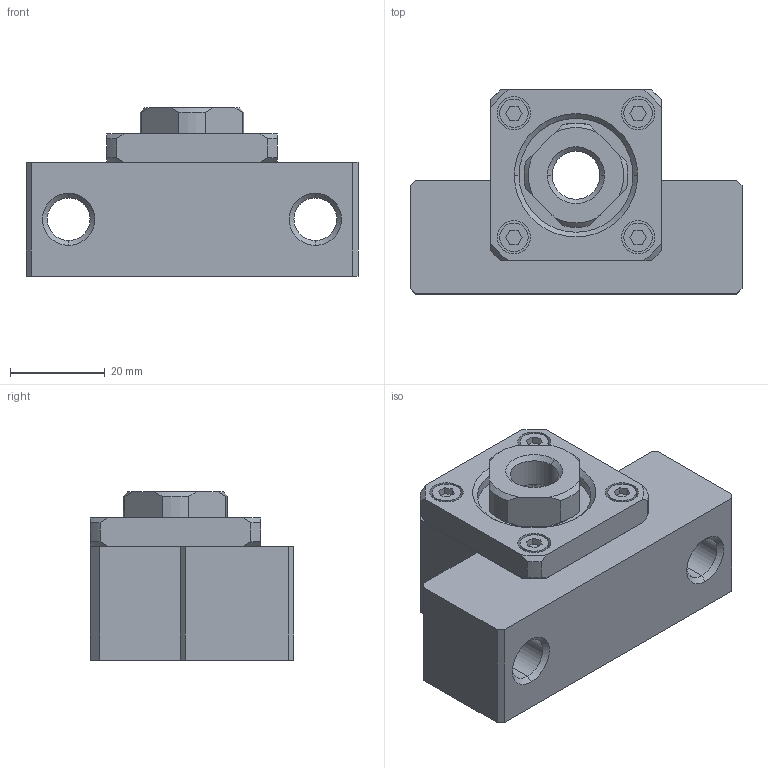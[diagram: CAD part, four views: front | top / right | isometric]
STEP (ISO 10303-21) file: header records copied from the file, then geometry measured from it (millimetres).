
FILE_DESCRIPTION (( 'STEP AP214' ), '1' );
FILE_NAME ('2.4015 Kuularuuvin tukilaakeri EK12.STEP', '2024-05-30T07:42:09', ( '' ), ( '' ), 'SwSTEP 2.0', 'SolidWorks 2024', '' );
FILE_SCHEMA (( 'AUTOMOTIVE_DESIGN' ));
Length unit declared in the file: millimetre
Products named in the file (1): 2.4015 Kuularuuvin tukilaakeri EK12
Bounding box: 70 x 43 x 35.5 mm (x, y, z)
Volume: 58496.2 mm3; surface area: 15275.5 mm2
Topology: 3 solids, 3 shells, 172 faces, 416 edges, 272 vertices
Faces by surface type: plane 88, cylinder 52, cone 30, torus 2
Entity records: 7049 total; most frequent: CARTESIAN_POINT 1134, DIRECTION 854, ORIENTED_EDGE 832, EDGE_CURVE 416, AXIS2_PLACEMENT_3D 312, VERTEX_POINT 272, VECTOR 230, LINE 230
